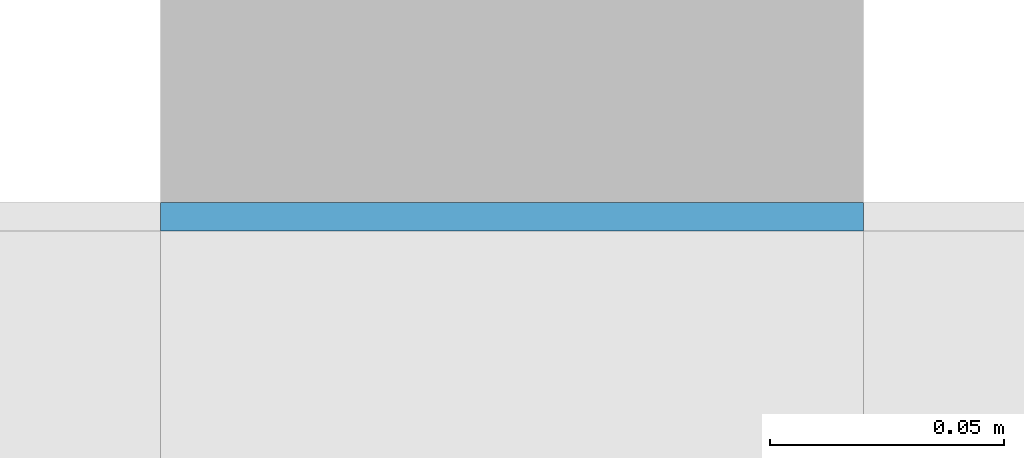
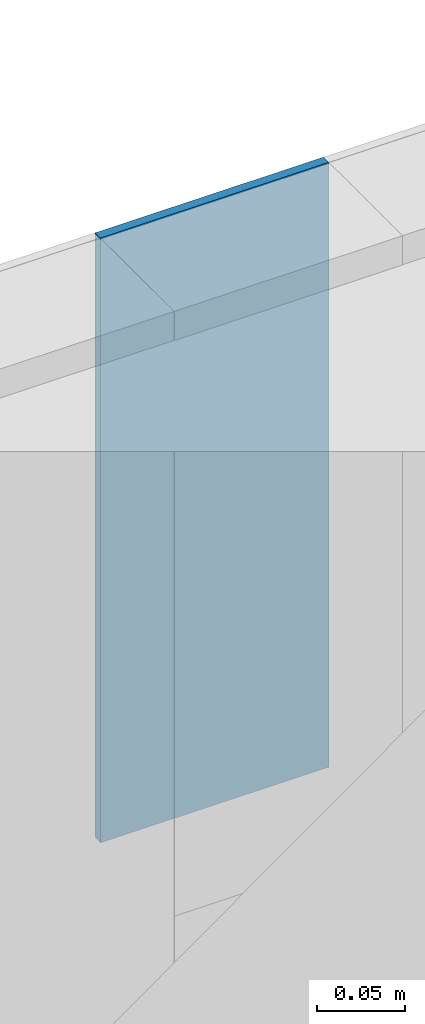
# One storey, part 115 of 135: 1 building element part, 1 element without a shape of its own.
"""IFC2X3 building model written with IfcOpenShell, lengths in millimetres."""

import ifcopenshell
import ifcopenshell.guid

model = None  # the IFC model being written
_history = None  # IfcOwnerHistory: only IFC2X3 demands one
_inside = {}  # id of a spatial element -> (the spatial element, [elements in it])
_under = {}  # id of a project, library or spatial element -> (it, [spatial elements below it])
_declared = {}  # id of a project -> (the project, [libraries it declares])
_typed = {}  # id of a type object -> (the type object, [elements of that type])
_made_of = {}  # id of a material, layer set ... -> (it, [elements and type objects made of it])


def new_model(schema):
    """Start an empty IFC model of exactly this schema.

    Asked for "IFC4X3", IfcOpenShell would pick the latest addendum, in which some entities
    have other attributes; the version numbers below select the first issue.
    IFC2X3 requires an IfcOwnerHistory on every rooted entity: one is made here for all.
    """
    global model, _history
    if schema == "IFC4X3":
        model = ifcopenshell.file(schema_version=(4, 3, 0, 0))
    else:
        model = ifcopenshell.file(schema=schema)
    _inside.clear()
    _under.clear()
    _declared.clear()
    _typed.clear()
    _made_of.clear()
    _history = None
    if model.schema == "IFC2X3":
        org = make("IfcOrganization", Name="unknown")
        user = make(
            "IfcPersonAndOrganization",
            ThePerson=make("IfcPerson", FamilyName="unknown"),
            TheOrganization=org,
        )
        app = make(
            "IfcApplication",
            ApplicationDeveloper=org,
            Version="unknown",
            ApplicationFullName="unknown",
            ApplicationIdentifier="unknown",
        )
        _history = make(
            "IfcOwnerHistory",
            OwningUser=user,
            OwningApplication=app,
            ChangeAction="ADDED",
            CreationDate=0,
        )
    return model


def make(cls, **values):
    """One entity of the class cls with the attributes given. An attribute that is None is left unset."""
    return model.create_entity(
        cls, **{name: value for name, value in values.items() if value is not None}
    )


def entity(cls, *values):
    """Any entity or typed value of the class cls, its attributes in the order of the schema. None: left unset."""
    e = model.create_entity(cls)
    for i, value in enumerate(values):
        if value is not None:
            e[i] = value
    return e


def rooted(cls, **values):
    """An entity with a GlobalId (a new one), such as an element, a storey or a relation."""
    return make(cls, GlobalId=ifcopenshell.guid.new(), OwnerHistory=_history, **values)


def si_unit(unit_type, name, prefix=None):
    """IfcSIUnit, for example si_unit("LENGTHUNIT", "METRE", prefix="MILLI")."""
    return make("IfcSIUnit", UnitType=unit_type, Prefix=prefix, Name=name)


def converted_unit(unit_type, name, factor, base, dimensions=None, offset=None):
    """IfcConversionBasedUnit, such as the inch: factor (a typed value) times the base unit."""
    return make(
        "IfcConversionBasedUnit"
        if offset is None
        else "IfcConversionBasedUnitWithOffset",
        ConversionOffset=offset,
        Dimensions=None
        if dimensions is None
        else entity("IfcDimensionalExponents", *dimensions),
        UnitType=unit_type,
        Name=name,
        ConversionFactor=make(
            "IfcMeasureWithUnit", ValueComponent=factor, UnitComponent=base
        ),
    )


def derived_unit(unit_type, elements):
    """IfcDerivedUnit: a product of units, each with its exponent."""
    return make(
        "IfcDerivedUnit",
        Elements=[
            make("IfcDerivedUnitElement", Unit=unit, Exponent=power)
            for unit, power in elements
        ],
        UnitType=unit_type,
    )


def money_unit(currency):
    """IfcMonetaryUnit."""
    return make("IfcMonetaryUnit", Currency=currency)


def assignment(units):
    """IfcUnitAssignment: the units of a project."""
    return None if units is None else make("IfcUnitAssignment", Units=units)


def point(xyz):
    """IfcCartesianPoint."""
    return None if xyz is None else make("IfcCartesianPoint", Coordinates=xyz)


def direction(xyz):
    """IfcDirection."""
    return None if xyz is None else make("IfcDirection", DirectionRatios=xyz)


def frame(location, z_axis=None, x_axis=None):
    """IfcAxis2Placement3D, a coordinate frame: its origin and axes. An axis left out is left unset."""
    return make(
        "IfcAxis2Placement3D",
        Location=point(location),
        Axis=direction(z_axis),
        RefDirection=direction(x_axis),
    )


def origin_with_axes():
    """The frame at (0, 0, 0) with the z axis (0, 0, 1) and the x axis (1, 0, 0) written out."""
    return frame((0.0, 0.0, 0.0), z_axis=(0.0, 0.0, 1.0), x_axis=(1.0, 0.0, 0.0))


def place(relative_to, where):
    """IfcLocalPlacement: puts the frame where relative to a parent placement (None: the world)."""
    return make(
        "IfcLocalPlacement", PlacementRelTo=relative_to, RelativePlacement=where
    )


def context(
    kind, dimensions, precision=None, world=None, true_north=None, identifier=None
):
    """IfcGeometricRepresentationContext, for example the 3D "Model" context."""
    return make(
        "IfcGeometricRepresentationContext",
        ContextIdentifier=identifier,
        ContextType=kind,
        CoordinateSpaceDimension=dimensions,
        Precision=precision,
        WorldCoordinateSystem=world,
        TrueNorth=true_north,
    )


def subcontext(parent, identifier, kind, view, scale=None):
    """IfcGeometricRepresentationSubContext, for example "Body" below "Model"."""
    return make(
        "IfcGeometricRepresentationSubContext",
        ContextIdentifier=identifier,
        ContextType=kind,
        ParentContext=parent,
        TargetScale=scale,
        TargetView=view,
    )


def project(units=None, contexts=None):
    """IfcProject with its units and contexts."""
    return rooted(
        "IfcProject",
        Name="project",
        RepresentationContexts=contexts,
        UnitsInContext=assignment(units),
    )


def spatial(cls, under=None, at=None, **own):
    """A site, building, storey or space (cls), placed at a placement, below another one or the project."""
    s = rooted(cls, ObjectPlacement=at, **own)
    if under is not None:
        _under.setdefault(under.id(), (under, []))[1].append(s)
    return s


def faces_of(points, faces, orient=None, outer=None):
    """IfcFace entities. A face is a list of loops; a loop is a list of indices into points, from 0.

    orient and outer hold one flag for each loop. By default every Orientation is true, the
    first loop of a face is its IfcFaceOuterBound and the others are IfcFaceBound.
    """
    made = []
    for i, loops in enumerate(faces):
        bounds = []
        for j, loop in enumerate(loops):
            is_outer = j == 0 if outer is None else outer[i][j]
            bounds.append(
                make(
                    "IfcFaceOuterBound" if is_outer else "IfcFaceBound",
                    Bound=make("IfcPolyLoop", Polygon=[points[k] for k in loop]),
                    Orientation=True if orient is None else orient[i][j],
                )
            )
        made.append(make("IfcFace", Bounds=bounds))
    return made


def faceted_brep(points, faces, orient=None, outer=None, voids=None):
    """IfcFacetedBrep: a solid bounded by flat faces; with voids (closed shells), ...WithVoids."""
    shared = [point(p) for p in points]
    hull = make("IfcClosedShell", CfsFaces=faces_of(shared, faces, orient, outer))
    if voids is None:
        return make("IfcFacetedBrep", Outer=hull)
    return make(
        "IfcFacetedBrepWithVoids",
        Outer=hull,
        Voids=[
            make(cls, CfsFaces=faces_of(shared, fs, o, b)) for cls, fs, o, b in voids
        ],
    )


def shape(context_of_items, identifier, shape_type, items):
    """IfcShapeRepresentation: the items that make up one representation, for example the "Body"."""
    return make(
        "IfcShapeRepresentation",
        ContextOfItems=context_of_items,
        RepresentationIdentifier=identifier,
        RepresentationType=shape_type,
        Items=items,
    )


def material(Name=None, Category=None):
    """IfcMaterial."""
    return make("IfcMaterial", Name=Name, Category=Category)


def made_of(thing, what):
    """Note that an element or type object is made of a material, layer set ...; save() writes the relation."""
    if what is not None:
        _made_of.setdefault(what.id(), (what, []))[1].append(thing)
    return thing


def type_object(cls, material=None, **own):
    """A type object (cls), such as IfcWallType, which elements share."""
    return made_of(rooted(cls, **own), material)


def element(
    cls,
    number,
    at=None,
    inside=None,
    cuts=None,
    type_object=None,
    material=None,
    context=None,
    identifier="Body",
    shape_type=None,
    held_by="IfcProductDefinitionShape",
    body=None,
    shapes=None,
    **own,
):
    """One element of the class cls, such as IfcWall. Its Tag is "e" and its number.

    at: its placement. inside: the storey or other place that contains it. cuts: it is an
    opening in that element (IfcRelVoidsElement). A single representation is given by context,
    identifier, shape_type and body (its items); several are given by shapes. held_by: the class
    of the entity that holds the representations. save() writes the other relations.
    """
    e = rooted(cls, Tag="e%d" % number, ObjectPlacement=at, **own)
    if body is not None:
        shapes = [shape(context, identifier, shape_type, body)]
    if shapes is not None:
        e.Representation = make(held_by, Representations=shapes)
    if inside is not None:
        _inside.setdefault(inside.id(), (inside, []))[1].append(e)
    if cuts is not None:
        rooted(
            "IfcRelVoidsElement", RelatingBuildingElement=cuts, RelatedOpeningElement=e
        )
    if type_object is not None:
        _typed.setdefault(type_object.id(), (type_object, []))[1].append(e)
    return made_of(e, material)


def aggregate(whole, parts):
    """IfcRelAggregates: a whole, such as a stair, and the parts it consists of."""
    return rooted("IfcRelAggregates", RelatingObject=whole, RelatedObjects=parts)


def save(model, path):
    """Write the relations noted so far, then the file.

    IfcRelAggregates (storeys below a building ...), IfcRelContainedInSpatialStructure (elements
    in a storey), IfcRelDefinesByType, IfcRelAssociatesMaterial and IfcRelDeclares: one each for
    every whole, place, type object, material and project.
    """
    for whole, parts in _under.values():
        aggregate(whole, parts)
    for where, things in _inside.values():
        rooted(
            "IfcRelContainedInSpatialStructure",
            RelatedElements=things,
            RelatingStructure=where,
        )
    for kind, things in _typed.values():
        rooted("IfcRelDefinesByType", RelatedObjects=things, RelatingType=kind)
    for what, things in _made_of.values():
        rooted("IfcRelAssociatesMaterial", RelatedObjects=things, RelatingMaterial=what)
    for by, libraries in _declared.values():
        rooted("IfcRelDeclares", RelatingContext=by, RelatedDefinitions=libraries)
    model.write(path)


model = new_model("IFC2X3")

# Units and contexts
model_context = context("Model", 3, precision=0.01, world=origin_with_axes(), true_north=direction((0.0, 1.0)))
body_context = subcontext(model_context, "Body", "Model", "MODEL_VIEW")
ifc_project = project(units=[si_unit("LENGTHUNIT", "METRE", prefix="MILLI"), si_unit("AREAUNIT", "SQUARE_METRE"), si_unit("VOLUMEUNIT", "CUBIC_METRE"), converted_unit("PLANEANGLEUNIT", "DEGREE", entity("IfcPlaneAngleMeasure", 0.0174532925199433), si_unit("PLANEANGLEUNIT", "RADIAN"), dimensions=[0, 0, 0, 0, 0, 0, 0]), money_unit("EUR"), converted_unit("TIMEUNIT", "Year", entity("IfcTimeMeasure", 31557600.0), si_unit("TIMEUNIT", "SECOND"), dimensions=[0, 0, 1, 0, 0, 0, 0]), si_unit("MASSUNIT", "GRAM", prefix="KILO"), si_unit("THERMODYNAMICTEMPERATUREUNIT", "DEGREE_CELSIUS"), si_unit("LUMINOUSINTENSITYUNIT", "LUMEN"), si_unit("ENERGYUNIT", "JOULE", prefix="MEGA"), derived_unit("THERMALCONDUCTANCEUNIT", [(si_unit("POWERUNIT", "WATT"), 1), (si_unit("LENGTHUNIT", "METRE"), -1), (si_unit("THERMODYNAMICTEMPERATUREUNIT", "KELVIN"), -1)]), derived_unit("SPECIFICHEATCAPACITYUNIT", [(si_unit("ENERGYUNIT", "JOULE"), 1), (si_unit("MASSUNIT", "GRAM", prefix="KILO"), -1), (si_unit("THERMODYNAMICTEMPERATUREUNIT", "KELVIN"), -1)]), derived_unit("MASSDENSITYUNIT", [(si_unit("MASSUNIT", "GRAM", prefix="KILO"), 1), (si_unit("VOLUMEUNIT", "CUBIC_METRE"), -1)])], contexts=[model_context])

# Site, building, storey
site_placement = place(None, origin_with_axes())
site = spatial("IfcSite", under=ifc_project, at=site_placement, Name="Site", CompositionType="ELEMENT")
building_placement = place(site_placement, origin_with_axes())
building = spatial("IfcBuilding", under=site, at=building_placement, Name="Naam gebouw", CompositionType="ELEMENT")
storey_placement = place(building_placement, origin_with_axes())
storey = spatial("IfcBuildingStorey", under=building, at=storey_placement, Name="Begane grond N", CompositionType="ELEMENT", Elevation=0.0)

# Wall, building element part
wall_type = type_object("IfcWallType", Name="Gevelstuc 90", PredefinedType="NOTDEFINED")
wall_placement = place(storey_placement, frame((26945.45381441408, 56215.91242510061, 3650.0), z_axis=(0.0, 0.0, 1.0), x_axis=(1.0, 0.0, 0.0)))
wall = element("IfcWall", 1, at=wall_placement, inside=storey, type_object=wall_type, Name="_Wand-x")
ifc_material = material(Name="stucwerk")
building_element_part_placement = place(wall_placement, origin_with_axes())
building_element_part = element("IfcBuildingElementPart", 2, at=building_element_part_placement, material=ifc_material, Name="stucwerk", context=body_context, shape_type="Brep", body=[
    faceted_brep([(149.9999999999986, -6.000000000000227, 420.0000000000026), (149.9999999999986, 0.0, 420.0000000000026), (0.0, 0.0, 420.0000000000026), (0.0, -6.000000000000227, 420.0000000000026), (149.9999999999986, -6.000000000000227, 0.0), (149.9999999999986, 0.0, 0.0), (0.0, 0.0, 0.0), (0.0, -6.000000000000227, 0.0)], [[[0, 1, 2, 3]], [[0, 4, 5, 1]], [[1, 5, 6, 2]], [[3, 2, 6, 7]], [[4, 0, 3, 7]], [[5, 4, 7, 6]]]),
])
aggregate(wall, [building_element_part])

save(model, "model.ifc")
